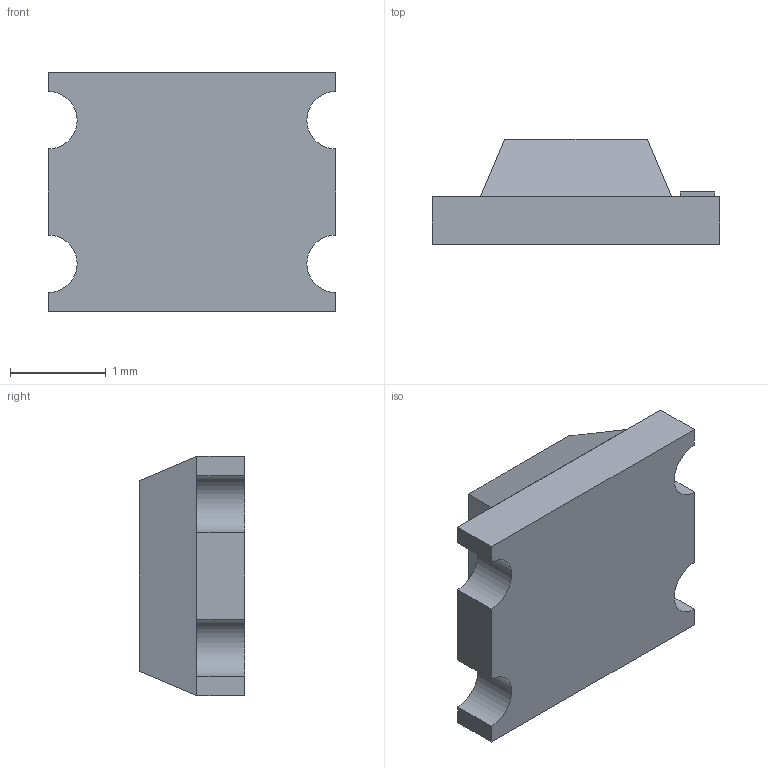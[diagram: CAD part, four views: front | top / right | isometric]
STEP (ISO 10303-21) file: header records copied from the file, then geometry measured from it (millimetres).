
FILE_DESCRIPTION (( 'STEP AP214' ), '1' );
FILE_NAME ('KPB-3025ESGC.STEP', '2013-03-28T13:21:43', ( 'Tester2' ), ( '' ), 'SwSTEP 2.0', 'SolidWorks 2012', '' );
FILE_SCHEMA (( 'AUTOMOTIVE_DESIGN' ));
Length unit declared in the file: millimetre
Products named in the file (1): KPB-3025ESGC
Bounding box: 3 x 1.1 x 2.5 mm (x, y, z)
Volume: 6 mm3; surface area: 34.4 mm2
Topology: 2 solids, 2 shells, 35 faces, 84 edges, 56 vertices
Faces by surface type: plane 31, cylinder 4
Entity records: 1280 total; most frequent: CARTESIAN_POINT 176, ORIENTED_EDGE 168, DIRECTION 164, EDGE_CURVE 84, VECTOR 76, LINE 76, VERTEX_POINT 56, AXIS2_PLACEMENT_3D 44
